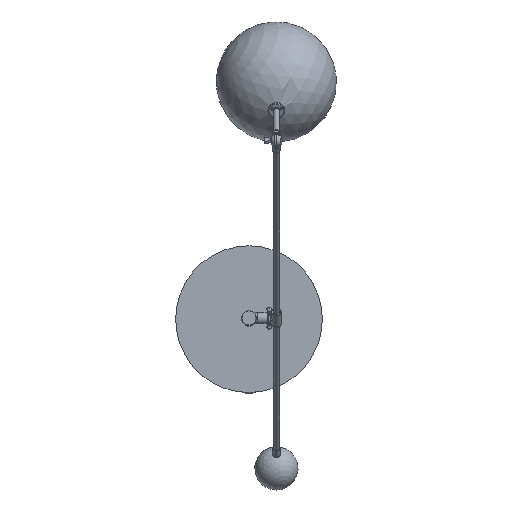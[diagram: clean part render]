
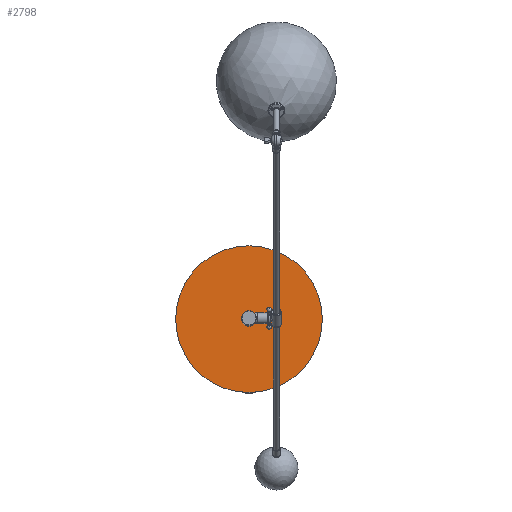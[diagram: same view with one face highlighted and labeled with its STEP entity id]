
A CAD part, top view. The second image highlights one B-rep face of the part: STEP entity #2798.
In plain terms, the highlighted planar face has unit normal (0, 0, 1).
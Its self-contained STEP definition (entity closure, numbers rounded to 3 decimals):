
#76=FACE_BOUND('',#517,.T.);
#153=PLANE('',#3107);
#315=FACE_OUTER_BOUND('',#516,.T.);
#516=EDGE_LOOP('',(#2495,#2496));
#517=EDGE_LOOP('',(#2497));
#682=CIRCLE('',#2845,152.5);
#808=CIRCLE('',#3104,15.);
#810=CIRCLE('',#3108,152.5);
#1060=VERTEX_POINT('',#3891);
#1062=VERTEX_POINT('',#3894);
#1308=VERTEX_POINT('',#10587);
#1334=EDGE_CURVE('',#1062,#1060,#682,.T.);
#1711=EDGE_CURVE('',#1308,#1308,#808,.T.);
#1713=EDGE_CURVE('',#1060,#1062,#810,.T.);
#2495=ORIENTED_EDGE('',*,*,#1334,.T.);
#2496=ORIENTED_EDGE('',*,*,#1713,.T.);
#2497=ORIENTED_EDGE('',*,*,#1711,.T.);
#2798=ADVANCED_FACE('',(#315,#76),#153,.F.);
#2845=AXIS2_PLACEMENT_3D('',#3895,#3159,#3160);
#3104=AXIS2_PLACEMENT_3D('',#10589,#3778,#3779);
#3107=AXIS2_PLACEMENT_3D('',#10592,#3784,#3785);
#3108=AXIS2_PLACEMENT_3D('',#10593,#3786,#3787);
#3159=DIRECTION('center_axis',(0.,0.,1.));
#3160=DIRECTION('ref_axis',(1.,0.,0.));
#3778=DIRECTION('center_axis',(0.,0.,-1.));
#3779=DIRECTION('ref_axis',(-1.,0.,0.));
#3784=DIRECTION('center_axis',(0.,0.,-1.));
#3785=DIRECTION('ref_axis',(-1.,0.,0.));
#3786=DIRECTION('center_axis',(0.,0.,1.));
#3787=DIRECTION('ref_axis',(1.,0.,0.));
#3891=CARTESIAN_POINT('',(0.,-152.5,44.));
#3894=CARTESIAN_POINT('',(-152.5,0.,44.));
#3895=CARTESIAN_POINT('Origin',(0.,0.,44.));
#10587=CARTESIAN_POINT('',(15.,0.,44.));
#10589=CARTESIAN_POINT('Origin',(0.,0.,44.));
#10592=CARTESIAN_POINT('Origin',(0.,0.,
44.));
#10593=CARTESIAN_POINT('Origin',(0.,0.,44.));
